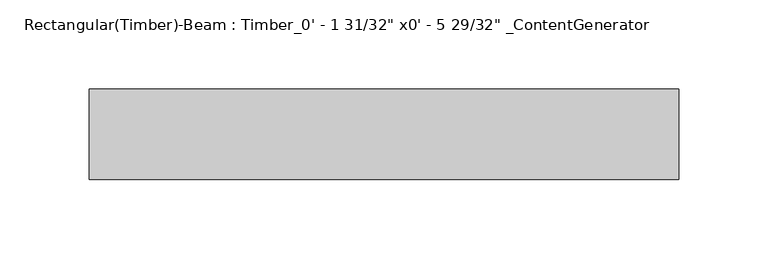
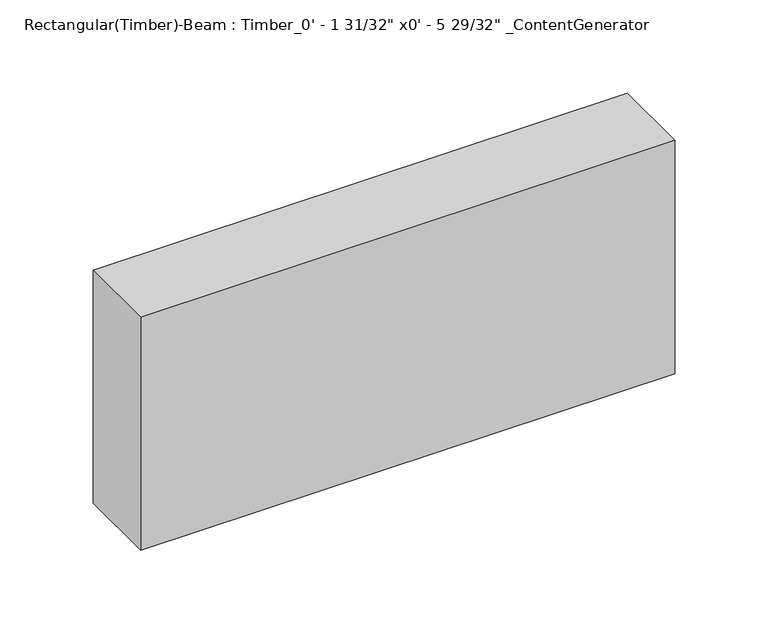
"""IFC4 building model written with IfcOpenShell, lengths in millimetres: beam geometry."""

import ifcopenshell
import ifcopenshell.guid

model = None  # the IFC model being written
_history = None  # IfcOwnerHistory: only IFC2X3 demands one
_inside = {}  # id of a spatial element -> (the spatial element, [elements in it])
_under = {}  # id of a project, library or spatial element -> (it, [spatial elements below it])
_declared = {}  # id of a project -> (the project, [libraries it declares])
_typed = {}  # id of a type object -> (the type object, [elements of that type])
_made_of = {}  # id of a material, layer set ... -> (it, [elements and type objects made of it])


def new_model(schema):
    """Start an empty IFC model of exactly this schema.

    Asked for "IFC4X3", IfcOpenShell would pick the latest addendum, in which some entities
    have other attributes; the version numbers below select the first issue.
    IFC2X3 requires an IfcOwnerHistory on every rooted entity: one is made here for all.
    """
    global model, _history
    if schema == "IFC4X3":
        model = ifcopenshell.file(schema_version=(4, 3, 0, 0))
    else:
        model = ifcopenshell.file(schema=schema)
    _inside.clear()
    _under.clear()
    _declared.clear()
    _typed.clear()
    _made_of.clear()
    _history = None
    if model.schema == "IFC2X3":
        org = make("IfcOrganization", Name="unknown")
        user = make(
            "IfcPersonAndOrganization",
            ThePerson=make("IfcPerson", FamilyName="unknown"),
            TheOrganization=org,
        )
        app = make(
            "IfcApplication",
            ApplicationDeveloper=org,
            Version="unknown",
            ApplicationFullName="unknown",
            ApplicationIdentifier="unknown",
        )
        _history = make(
            "IfcOwnerHistory",
            OwningUser=user,
            OwningApplication=app,
            ChangeAction="ADDED",
            CreationDate=0,
        )
    return model


def make(cls, **values):
    """One entity of the class cls with the attributes given. An attribute that is None is left unset."""
    return model.create_entity(
        cls, **{name: value for name, value in values.items() if value is not None}
    )


def rooted(cls, **values):
    """An entity with a GlobalId (a new one), such as an element, a storey or a relation."""
    return make(cls, GlobalId=ifcopenshell.guid.new(), OwnerHistory=_history, **values)


def si_unit(unit_type, name, prefix=None):
    """IfcSIUnit, for example si_unit("LENGTHUNIT", "METRE", prefix="MILLI")."""
    return make("IfcSIUnit", UnitType=unit_type, Prefix=prefix, Name=name)


def assignment(units):
    """IfcUnitAssignment: the units of a project."""
    return None if units is None else make("IfcUnitAssignment", Units=units)


def point(xyz):
    """IfcCartesianPoint."""
    return None if xyz is None else make("IfcCartesianPoint", Coordinates=xyz)


def direction(xyz):
    """IfcDirection."""
    return None if xyz is None else make("IfcDirection", DirectionRatios=xyz)


def frame(location, z_axis=None, x_axis=None):
    """IfcAxis2Placement3D, a coordinate frame: its origin and axes. An axis left out is left unset."""
    return make(
        "IfcAxis2Placement3D",
        Location=point(location),
        Axis=direction(z_axis),
        RefDirection=direction(x_axis),
    )


def origin():
    """The frame at (0, 0, 0) with its axes left unset."""
    return frame((0.0, 0.0, 0.0))


def place(relative_to, where):
    """IfcLocalPlacement: puts the frame where relative to a parent placement (None: the world)."""
    return make(
        "IfcLocalPlacement", PlacementRelTo=relative_to, RelativePlacement=where
    )


def context(
    kind, dimensions, precision=None, world=None, true_north=None, identifier=None
):
    """IfcGeometricRepresentationContext, for example the 3D "Model" context."""
    return make(
        "IfcGeometricRepresentationContext",
        ContextIdentifier=identifier,
        ContextType=kind,
        CoordinateSpaceDimension=dimensions,
        Precision=precision,
        WorldCoordinateSystem=world,
        TrueNorth=true_north,
    )


def project(units=None, contexts=None):
    """IfcProject with its units and contexts."""
    return rooted(
        "IfcProject",
        Name="project",
        RepresentationContexts=contexts,
        UnitsInContext=assignment(units),
    )


def spatial(cls, under=None, at=None, **own):
    """A site, building, storey or space (cls), placed at a placement, below another one or the project."""
    s = rooted(cls, ObjectPlacement=at, **own)
    if under is not None:
        _under.setdefault(under.id(), (under, []))[1].append(s)
    return s


def polyline(points):
    """IfcPolyline through the points."""
    return make("IfcPolyline", Points=[point(p) for p in points])


def outline(outer, holes=None, kind="AREA"):
    """IfcArbitraryClosedProfileDef: a profile drawn as a closed curve; with holes, ...WithVoids."""
    if holes is None:
        return make("IfcArbitraryClosedProfileDef", ProfileType=kind, OuterCurve=outer)
    return make(
        "IfcArbitraryProfileDefWithVoids",
        ProfileType=kind,
        OuterCurve=outer,
        InnerCurves=holes,
    )


def extrude(swept, where, along, depth):
    """IfcExtrudedAreaSolid: the profile swept, set in the frame where, extruded along a direction by depth."""
    return make(
        "IfcExtrudedAreaSolid",
        SweptArea=swept,
        Position=where,
        ExtrudedDirection=direction(along),
        Depth=depth,
    )


def shape(context_of_items, identifier, shape_type, items):
    """IfcShapeRepresentation: the items that make up one representation, for example the "Body"."""
    return make(
        "IfcShapeRepresentation",
        ContextOfItems=context_of_items,
        RepresentationIdentifier=identifier,
        RepresentationType=shape_type,
        Items=items,
    )


def source(mapping_origin, context_of_items, identifier, shape_type, items):
    """IfcRepresentationMap: a shape defined once, which mapped items show again and again."""
    return make(
        "IfcRepresentationMap",
        MappingOrigin=mapping_origin,
        MappedRepresentation=shape(context_of_items, identifier, shape_type, items),
    )


def transform(
    local_origin,
    x_axis=None,
    y_axis=None,
    z_axis=None,
    scale=None,
    scale2=None,
    scale3=None,
    uniform=True,
):
    """IfcCartesianTransformationOperator3D, or its non-uniform kind. x_axis, y_axis, z_axis: its Axis1, 2, 3."""
    if uniform:
        return make(
            "IfcCartesianTransformationOperator3D",
            Axis1=direction(x_axis),
            Axis2=direction(y_axis),
            LocalOrigin=point(local_origin),
            Scale=scale,
            Axis3=direction(z_axis),
        )
    return make(
        "IfcCartesianTransformationOperator3DnonUniform",
        Axis1=direction(x_axis),
        Axis2=direction(y_axis),
        LocalOrigin=point(local_origin),
        Scale=scale,
        Axis3=direction(z_axis),
        Scale2=scale2,
        Scale3=scale3,
    )


def mapped(mapping_source, mapping_target):
    """IfcMappedItem: shows the shape of a source again, moved by a transform."""
    return make(
        "IfcMappedItem", MappingSource=mapping_source, MappingTarget=mapping_target
    )


def made_of(thing, what):
    """Note that an element or type object is made of a material, layer set ...; save() writes the relation."""
    if what is not None:
        _made_of.setdefault(what.id(), (what, []))[1].append(thing)
    return thing


def element(
    cls,
    number,
    at=None,
    inside=None,
    cuts=None,
    type_object=None,
    material=None,
    context=None,
    identifier="Body",
    shape_type=None,
    held_by="IfcProductDefinitionShape",
    body=None,
    shapes=None,
    **own,
):
    """One element of the class cls, such as IfcWall. Its Tag is "e" and its number.

    at: its placement. inside: the storey or other place that contains it. cuts: it is an
    opening in that element (IfcRelVoidsElement). A single representation is given by context,
    identifier, shape_type and body (its items); several are given by shapes. held_by: the class
    of the entity that holds the representations. save() writes the other relations.
    """
    e = rooted(cls, Tag="e%d" % number, ObjectPlacement=at, **own)
    if body is not None:
        shapes = [shape(context, identifier, shape_type, body)]
    if shapes is not None:
        e.Representation = make(held_by, Representations=shapes)
    if inside is not None:
        _inside.setdefault(inside.id(), (inside, []))[1].append(e)
    if cuts is not None:
        rooted(
            "IfcRelVoidsElement", RelatingBuildingElement=cuts, RelatedOpeningElement=e
        )
    if type_object is not None:
        _typed.setdefault(type_object.id(), (type_object, []))[1].append(e)
    return made_of(e, material)


def aggregate(whole, parts):
    """IfcRelAggregates: a whole, such as a stair, and the parts it consists of."""
    return rooted("IfcRelAggregates", RelatingObject=whole, RelatedObjects=parts)


def save(model, path):
    """Write the relations noted so far, then the file.

    IfcRelAggregates (storeys below a building ...), IfcRelContainedInSpatialStructure (elements
    in a storey), IfcRelDefinesByType, IfcRelAssociatesMaterial and IfcRelDeclares: one each for
    every whole, place, type object, material and project.
    """
    for whole, parts in _under.values():
        aggregate(whole, parts)
    for where, things in _inside.values():
        rooted(
            "IfcRelContainedInSpatialStructure",
            RelatedElements=things,
            RelatingStructure=where,
        )
    for kind, things in _typed.values():
        rooted("IfcRelDefinesByType", RelatedObjects=things, RelatingType=kind)
    for what, things in _made_of.values():
        rooted("IfcRelAssociatesMaterial", RelatedObjects=things, RelatingMaterial=what)
    for by, libraries in _declared.values():
        rooted("IfcRelDeclares", RelatingContext=by, RelatedDefinitions=libraries)
    model.write(path)


def beam_9cccf745(model_context):
    return source(origin(), model_context, "Body", "SweptSolid", [
        extrude(outline(polyline([(165.1, 25.4), (165.1, -25.4), (-165.1, -25.4), (-165.1, 25.4), (165.1, 25.4)])), frame((0.0, 0.0, -76.2), z_axis=(0.0, 0.0, 1.0), x_axis=(1.0, 0.0, 0.0)), (0.0, 0.0, 1.0), 152.4),
    ])


if __name__ == "__main__":
    model = new_model("IFC4")
    model_context = context("Model", 3, world=origin())
    ifc_project = project(units=[si_unit("LENGTHUNIT", "METRE", prefix="MILLI")], contexts=[model_context])
    site = spatial("IfcSite", under=ifc_project)
    building = spatial("IfcBuilding", under=site)
    placement = place(None, origin())
    beam_shape = beam_9cccf745(model_context)
    element("IfcBeam", 1, ObjectType="Rectangular(Timber)-Beam : Timber_0' - 1 31/32\" x0' - 5 29/32\" _ContentGenerator", at=placement, inside=building, context=model_context, shape_type="MappedRepresentation", body=[
        mapped(beam_shape, transform((0.0, 0.0, 0.0), x_axis=(1.0, 0.0, 0.0), y_axis=(0.0, 1.0, 0.0), z_axis=(0.0, 0.0, 1.0))),
    ])
    save(model, "model.ifc")
